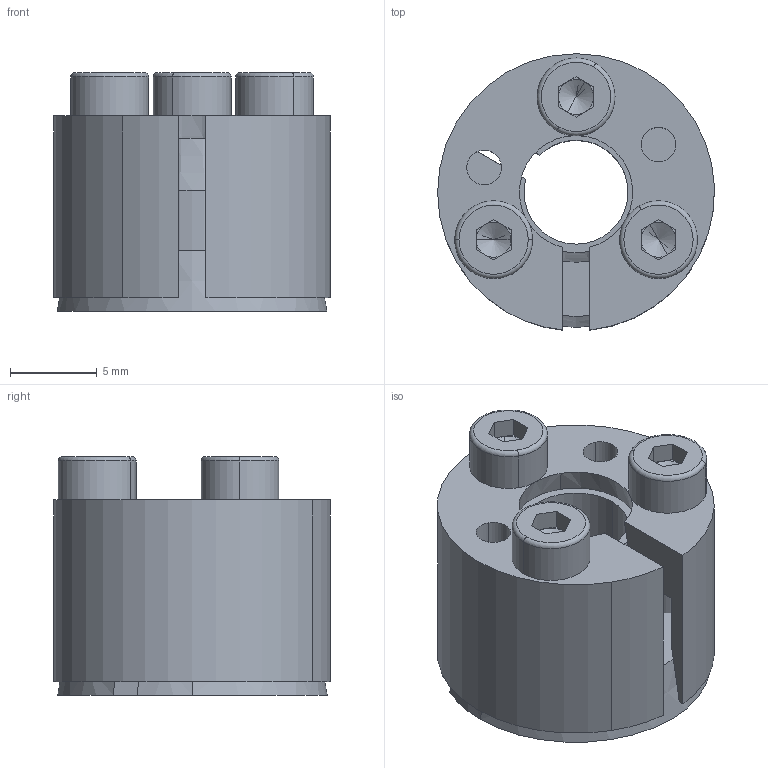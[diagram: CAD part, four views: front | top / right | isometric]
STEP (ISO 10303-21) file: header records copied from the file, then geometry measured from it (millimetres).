
FILE_DESCRIPTION (( 'STEP AP214' ), '1' );
FILE_NAME ('CONEX-K-6x16.step', '2013-04-06T13:20:10', ( 'Pc' ), ( '' ), 'SwSTEP 2.0', 'SolidWorks 2013', '' );
FILE_SCHEMA (( 'AUTOMOTIVE_DESIGN' ));
Length unit declared in the file: millimetre
Products named in the file (1): CONEX-K-6x16
Bounding box: 15.99 x 15.96 x 13.79 mm (x, y, z)
Volume: 1517.4 mm3; surface area: 2600.4 mm2
Topology: 5 solids, 5 shells, 131 faces, 308 edges, 187 vertices
Faces by surface type: plane 55, cylinder 40, cone 24, torus 12
Entity records: 5269 total; most frequent: DIRECTION 704, CARTESIAN_POINT 645, ORIENTED_EDGE 604, EDGE_CURVE 302, AXIS2_PLACEMENT_3D 278, VERTEX_POINT 187, EDGE_LOOP 153, LINE 148
